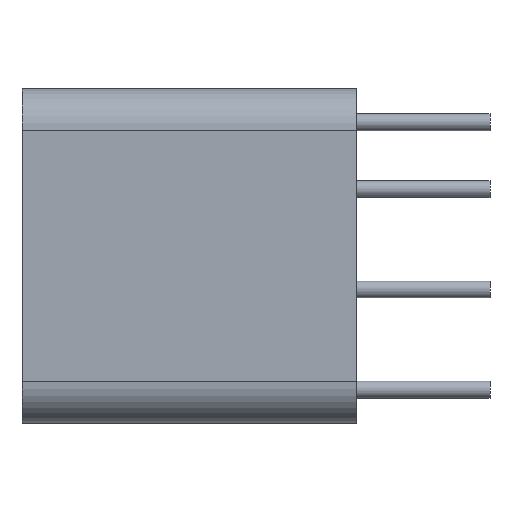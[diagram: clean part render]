
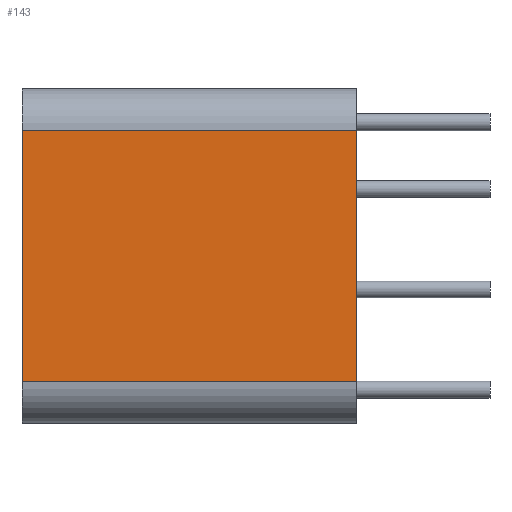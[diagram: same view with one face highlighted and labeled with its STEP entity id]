
A CAD part, left-side view. The second image highlights one B-rep face of the part: STEP entity #143.
In plain terms, the highlighted planar face has unit normal (-1, 0, 0).
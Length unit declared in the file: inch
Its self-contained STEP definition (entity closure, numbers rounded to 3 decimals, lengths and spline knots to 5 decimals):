
#49 = LINE ( 'NONE', #773, #233 ) ;
#71 = EDGE_CURVE ( 'NONE', #299, #699, #469, .T. ) ;
#123 = LINE ( 'NONE', #883, #671 ) ;
#124 = DIRECTION ( 'NONE',  ( 1., 0., 0. ) ) ;
#143 = ADVANCED_FACE ( 'NONE', ( #570 ), #900, .F. ) ;
#166 = CARTESIAN_POINT ( 'NONE',  ( -0.25, 0., 0.188 ) ) ;
#171 = CARTESIAN_POINT ( 'NONE',  ( -0.25, 0., -0.188 ) ) ;
#227 = VERTEX_POINT ( 'NONE', #166 ) ;
#233 = VECTOR ( 'NONE', #428, 39.37008 ) ;
#269 = ORIENTED_EDGE ( 'NONE', *, *, #568, .T. ) ;
#283 = ORIENTED_EDGE ( 'NONE', *, *, #820, .T. ) ;
#299 = VERTEX_POINT ( 'NONE', #463 ) ;
#337 = VECTOR ( 'NONE', #899, 39.37008 ) ;
#340 = DIRECTION ( 'NONE',  ( 0., -1., 0. ) ) ;
#352 = DIRECTION ( 'NONE',  ( 0., 0., -1. ) ) ;
#428 = DIRECTION ( 'NONE',  ( 0., 0., 1. ) ) ;
#463 = CARTESIAN_POINT ( 'NONE',  ( -0.25, 0.5, -0.188 ) ) ;
#464 = DIRECTION ( 'NONE',  ( 0., 0., 1. ) ) ;
#469 = LINE ( 'NONE', #805, #683 ) ;
#503 = EDGE_CURVE ( 'NONE', #299, #885, #123, .T. ) ;
#568 = EDGE_CURVE ( 'NONE', #885, #227, #49, .T. ) ;
#570 = FACE_OUTER_BOUND ( 'NONE', #592, .T. ) ;
#582 = AXIS2_PLACEMENT_3D ( 'NONE', #763, #124, #352 ) ;
#592 = EDGE_LOOP ( 'NONE', ( #777, #851, #269, #283 ) ) ;
#608 = CARTESIAN_POINT ( 'NONE',  ( -0.25, 0.5, 0.188 ) ) ;
#671 = VECTOR ( 'NONE', #340, 39.37008 ) ;
#681 = CARTESIAN_POINT ( 'NONE',  ( -0.25, 0.5, 0.188 ) ) ;
#683 = VECTOR ( 'NONE', #464, 39.37008 ) ;
#699 = VERTEX_POINT ( 'NONE', #608 ) ;
#763 = CARTESIAN_POINT ( 'NONE',  ( -0.25, 0.5, 0.25 ) ) ;
#773 = CARTESIAN_POINT ( 'NONE',  ( -0.25, 0., 0.25 ) ) ;
#777 = ORIENTED_EDGE ( 'NONE', *, *, #71, .F. ) ;
#792 = LINE ( 'NONE', #681, #337 ) ;
#805 = CARTESIAN_POINT ( 'NONE',  ( -0.25, 0.5, 0.25 ) ) ;
#820 = EDGE_CURVE ( 'NONE', #227, #699, #792, .T. ) ;
#851 = ORIENTED_EDGE ( 'NONE', *, *, #503, .T. ) ;
#883 = CARTESIAN_POINT ( 'NONE',  ( -0.25, 0.5, -0.188 ) ) ;
#885 = VERTEX_POINT ( 'NONE', #171 ) ;
#899 = DIRECTION ( 'NONE',  ( 0., 1., 0. ) ) ;
#900 = PLANE ( 'NONE',  #582 ) ;
